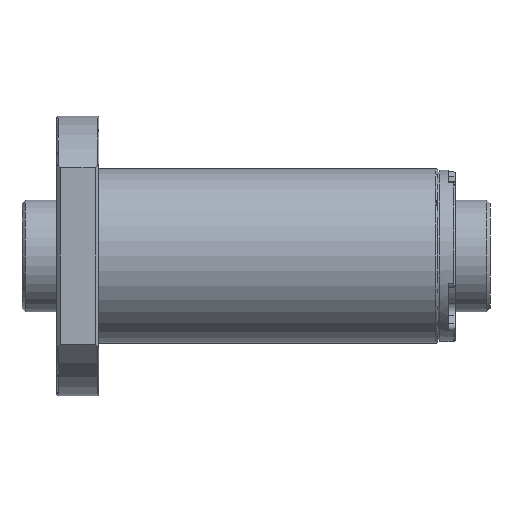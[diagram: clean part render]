
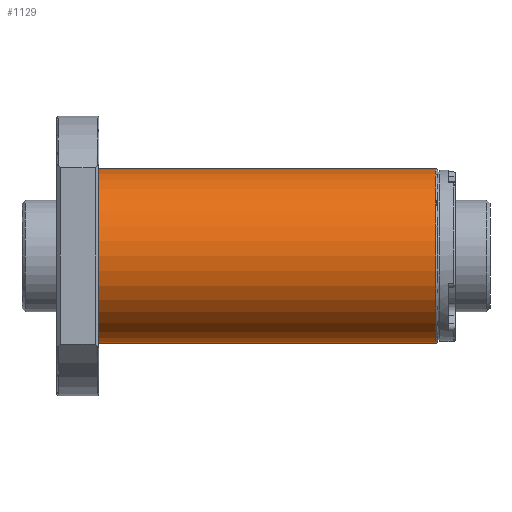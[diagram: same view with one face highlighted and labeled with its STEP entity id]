
A CAD part, front view. The second image highlights one B-rep face of the part: STEP entity #1129.
In plain terms, the highlighted cylindrical face has radius 25 mm (diameter 50 mm), a partial arc.
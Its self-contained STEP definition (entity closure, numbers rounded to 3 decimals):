
#321 = FACE_OUTER_BOUND ( 'NONE', #1350, .T. ) ;
#438 = CARTESIAN_POINT ( 'NONE',  ( 0., 0., 0. ) ) ;
#820 = CARTESIAN_POINT ( 'NONE',  ( 12., 0., -25. ) ) ;
#874 = LINE ( 'NONE', #6377, #3453 ) ;
#1129 = ADVANCED_FACE ( 'NONE', ( #321 ), #5287, .T. ) ;
#1169 = EDGE_CURVE ( 'NONE', #9310, #4547, #7252, .T. ) ;
#1346 = CIRCLE ( 'NONE', #9366, 25. ) ;
#1350 = EDGE_LOOP ( 'NONE', ( #8489, #5316, #5147, #8572 ) ) ;
#2038 = DIRECTION ( 'NONE',  ( 0., 0., 1. ) ) ;
#2276 = EDGE_CURVE ( 'NONE', #8951, #9310, #7361, .T. ) ;
#2507 = CARTESIAN_POINT ( 'NONE',  ( 12., 0., 25. ) ) ;
#2637 = DIRECTION ( 'NONE',  ( -1., 0., 0. ) ) ;
#2652 = DIRECTION ( 'NONE',  ( 1., 0., 0. ) ) ;
#2921 = VECTOR ( 'NONE', #8490, 1000. ) ;
#3046 = AXIS2_PLACEMENT_3D ( 'NONE', #4964, #2652, #5033 ) ;
#3238 = CARTESIAN_POINT ( 'NONE',  ( 0., 0., 25. ) ) ;
#3453 = VECTOR ( 'NONE', #2637, 1000. ) ;
#4547 = VERTEX_POINT ( 'NONE', #820 ) ;
#4599 = VERTEX_POINT ( 'NONE', #6890 ) ;
#4964 = CARTESIAN_POINT ( 'NONE',  ( 12., 0., 0. ) ) ;
#5033 = DIRECTION ( 'NONE',  ( 0., 0., 1. ) ) ;
#5147 = ORIENTED_EDGE ( 'NONE', *, *, #2276, .T. ) ;
#5287 = CYLINDRICAL_SURFACE ( 'NONE', #9379, 25. ) ;
#5316 = ORIENTED_EDGE ( 'NONE', *, *, #8494, .T. ) ;
#5444 = EDGE_CURVE ( 'NONE', #4599, #4547, #874, .T. ) ;
#5645 = DIRECTION ( 'NONE',  ( 0., 0., 1. ) ) ;
#5675 = DIRECTION ( 'NONE',  ( -1., 0., 0. ) ) ;
#5767 = CARTESIAN_POINT ( 'NONE',  ( 108.5, 0., 25. ) ) ;
#6377 = CARTESIAN_POINT ( 'NONE',  ( 0., 0., -25. ) ) ;
#6890 = CARTESIAN_POINT ( 'NONE',  ( 108.5, 0., -25. ) ) ;
#7252 = CIRCLE ( 'NONE', #3046, 25. ) ;
#7361 = LINE ( 'NONE', #3238, #2921 ) ;
#7795 = DIRECTION ( 'NONE',  ( -1., 0., 0. ) ) ;
#8489 = ORIENTED_EDGE ( 'NONE', *, *, #5444, .F. ) ;
#8490 = DIRECTION ( 'NONE',  ( -1., 0., 0. ) ) ;
#8494 = EDGE_CURVE ( 'NONE', #4599, #8951, #1346, .T. ) ;
#8572 = ORIENTED_EDGE ( 'NONE', *, *, #1169, .T. ) ;
#8653 = CARTESIAN_POINT ( 'NONE',  ( 108.5, 0., 0. ) ) ;
#8951 = VERTEX_POINT ( 'NONE', #5767 ) ;
#9310 = VERTEX_POINT ( 'NONE', #2507 ) ;
#9366 = AXIS2_PLACEMENT_3D ( 'NONE', #8653, #7795, #5645 ) ;
#9379 = AXIS2_PLACEMENT_3D ( 'NONE', #438, #5675, #2038 ) ;
